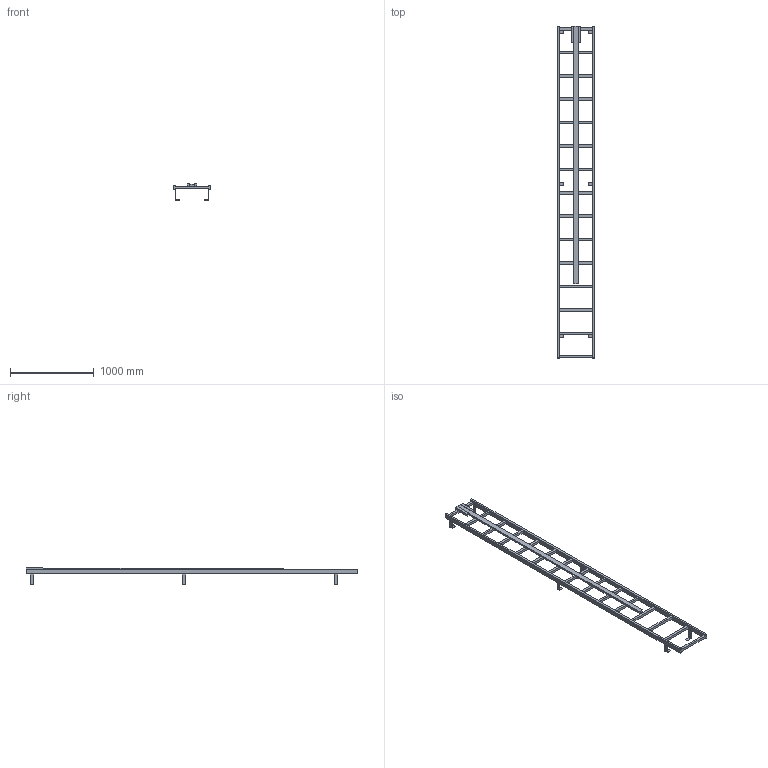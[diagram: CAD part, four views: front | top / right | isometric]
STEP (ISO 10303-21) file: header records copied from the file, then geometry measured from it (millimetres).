
FILE_DESCRIPTION((''),'2;1');
FILE_NAME('017_000109','2017-06-19T',('set'),('HUBER SE'),'PRO/ENGINEER BY PARAMETRIC TECHNOLOGY CORPORATION, 2015280','PRO/ENGINEER BY PARAMETRIC TECHNOLOGY CORPORATION, 2015280','');
FILE_SCHEMA(('CONFIG_CONTROL_DESIGN'));
Length unit declared in the file: millimetre
Products named in the file (1): 017_000109
Bounding box: 450 x 3970 x 195 mm (x, y, z)
Volume: 21311460 mm3; surface area: 2577540 mm2
Topology: 1 solids, 1 shells, 154 faces, 567 edges, 391 vertices
Faces by surface type: plane 154
Entity records: 5852 total; most frequent: CARTESIAN_POINT 1168, ORIENTED_EDGE 932, DIRECTION 860, VECTOR 520, LINE 520, EDGE_CURVE 466, VERTEX_POINT 290, EDGE_LOOP 178
